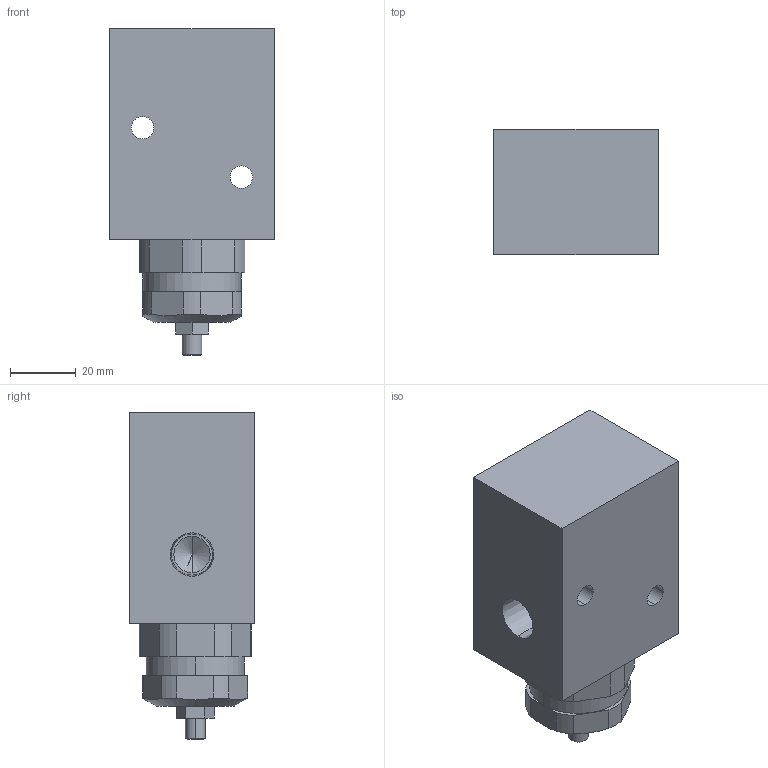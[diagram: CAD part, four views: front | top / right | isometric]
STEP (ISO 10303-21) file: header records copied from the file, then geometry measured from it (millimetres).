
FILE_DESCRIPTION(/* description */ (''),/* implementation_level */ '2;1');
FILE_NAME(/* name */ 'PBGT-LB.stp',/* time_stamp */ '2024-10-24T09:13:07+08:00',/* author */ (''),/* organization */ (''),/* preprocessor_version */ 'ST-DEVELOPER v16.7',/* originating_system */ 'SIEMENS PLM Software NX 12.0',/* authorisation */ '');
FILE_SCHEMA (('AP203_CONFIGURATION_CONTROLLED_3D_DESIGN_OF_MECHANICAL_PARTS_AND_ASSEMBLIES_MIM_LF { 1 0 10303 403 2 1 2}'));
Length unit declared in the file: millimetre
Products named in the file (1): VEF-LT_step
Bounding box: 50 x 38 x 99 mm (x, y, z)
Volume: 135157.9 mm3; surface area: 20309.2 mm2
Topology: 1 solids, 1 shells, 74 faces, 186 edges, 120 vertices
Faces by surface type: plane 38, cylinder 24, cone 12
Entity records: 2312 total; most frequent: CARTESIAN_POINT 409, DIRECTION 384, ORIENTED_EDGE 364, EDGE_CURVE 182, AXIS2_PLACEMENT_3D 135, VERTEX_POINT 120, LINE 114, VECTOR 114
